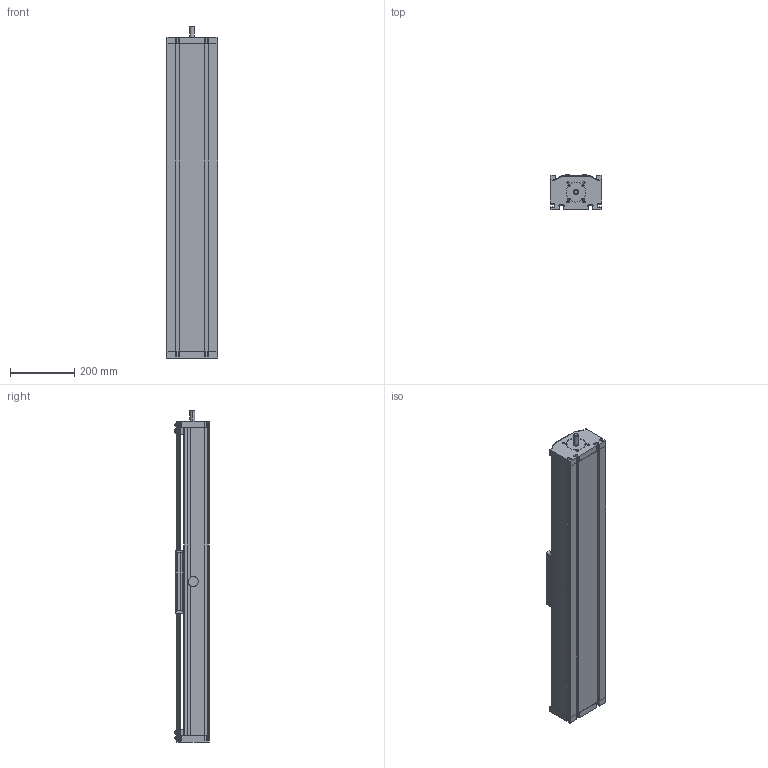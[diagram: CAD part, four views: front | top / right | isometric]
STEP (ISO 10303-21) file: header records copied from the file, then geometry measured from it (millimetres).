
FILE_DESCRIPTION (( 'STEP AP214' ), '1' );
FILE_NAME ('DLT(K) 160P.STEP', '2022-06-29T10:21:43', ( '' ), ( '' ), 'SwSTEP 2.0', 'SolidWorks 2020', '' );
FILE_SCHEMA (( 'AUTOMOTIVE_DESIGN' ));
Length unit declared in the file: millimetre
Products named in the file (5): DLT(K) 160P; bearing block^DLT(K) 160P_cap; profile^DLT(K) 160P_standard; bearing block^DLT(K) 160P_shaft; carriage^DLT(K) 160P_carriage 0
Assembly tree (4 placements, depth 2):
  DLT(K) 160P
    profile^DLT(K) 160P_standard
    carriage^DLT(K) 160P_carriage 0
    bearing block^DLT(K) 160P_shaft
    bearing block^DLT(K) 160P_cap
Bounding box: 160 x 108.5 x 1035 mm (x, y, z)
Volume: 7076751.9 mm3; surface area: 1444504.5 mm2
Topology: 8 solids, 8 shells, 556 faces, 1534 edges, 972 vertices
Faces by surface type: plane 288, cylinder 194, cone 58, bspline 16
Entity records: 21839 total; most frequent: CARTESIAN_POINT 6003, ORIENTED_EDGE 2964, DIRECTION 2852, EDGE_CURVE 1482, VECTOR 998, LINE 998, VERTEX_POINT 972, AXIS2_PLACEMENT_3D 927
